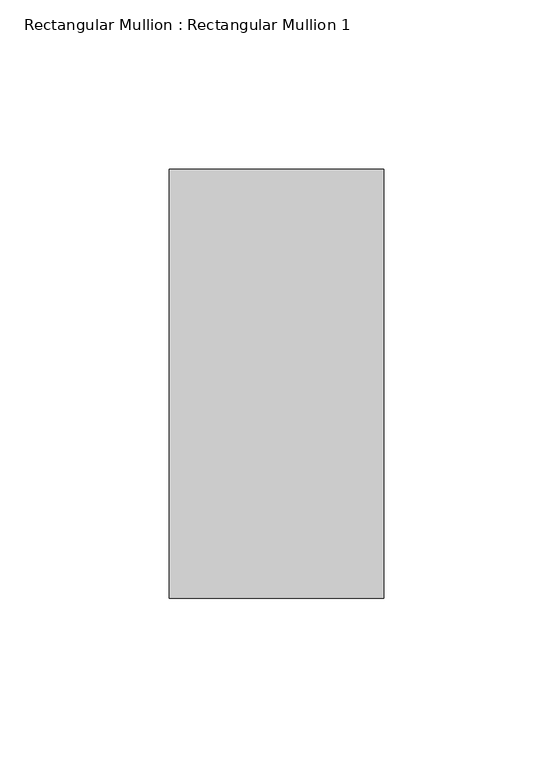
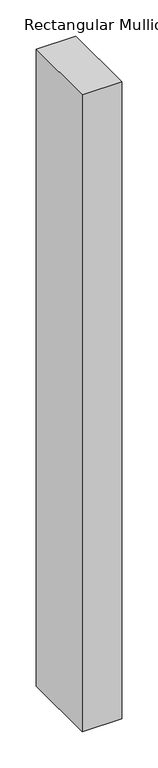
"""IFC4 building model written with IfcOpenShell, lengths in millimetres: member geometry, Rectangular Mullion : Rectangular Mullion 1."""

import ifcopenshell
import ifcopenshell.guid

model = None  # the IFC model being written
_history = None  # IfcOwnerHistory: only IFC2X3 demands one
_inside = {}  # id of a spatial element -> (the spatial element, [elements in it])
_under = {}  # id of a project, library or spatial element -> (it, [spatial elements below it])
_declared = {}  # id of a project -> (the project, [libraries it declares])
_typed = {}  # id of a type object -> (the type object, [elements of that type])
_made_of = {}  # id of a material, layer set ... -> (it, [elements and type objects made of it])


def new_model(schema):
    """Start an empty IFC model of exactly this schema.

    Asked for "IFC4X3", IfcOpenShell would pick the latest addendum, in which some entities
    have other attributes; the version numbers below select the first issue.
    IFC2X3 requires an IfcOwnerHistory on every rooted entity: one is made here for all.
    """
    global model, _history
    if schema == "IFC4X3":
        model = ifcopenshell.file(schema_version=(4, 3, 0, 0))
    else:
        model = ifcopenshell.file(schema=schema)
    _inside.clear()
    _under.clear()
    _declared.clear()
    _typed.clear()
    _made_of.clear()
    _history = None
    if model.schema == "IFC2X3":
        org = make("IfcOrganization", Name="unknown")
        user = make(
            "IfcPersonAndOrganization",
            ThePerson=make("IfcPerson", FamilyName="unknown"),
            TheOrganization=org,
        )
        app = make(
            "IfcApplication",
            ApplicationDeveloper=org,
            Version="unknown",
            ApplicationFullName="unknown",
            ApplicationIdentifier="unknown",
        )
        _history = make(
            "IfcOwnerHistory",
            OwningUser=user,
            OwningApplication=app,
            ChangeAction="ADDED",
            CreationDate=0,
        )
    return model


def make(cls, **values):
    """One entity of the class cls with the attributes given. An attribute that is None is left unset."""
    return model.create_entity(
        cls, **{name: value for name, value in values.items() if value is not None}
    )


def rooted(cls, **values):
    """An entity with a GlobalId (a new one), such as an element, a storey or a relation."""
    return make(cls, GlobalId=ifcopenshell.guid.new(), OwnerHistory=_history, **values)


def si_unit(unit_type, name, prefix=None):
    """IfcSIUnit, for example si_unit("LENGTHUNIT", "METRE", prefix="MILLI")."""
    return make("IfcSIUnit", UnitType=unit_type, Prefix=prefix, Name=name)


def assignment(units):
    """IfcUnitAssignment: the units of a project."""
    return None if units is None else make("IfcUnitAssignment", Units=units)


def point(xyz):
    """IfcCartesianPoint."""
    return None if xyz is None else make("IfcCartesianPoint", Coordinates=xyz)


def direction(xyz):
    """IfcDirection."""
    return None if xyz is None else make("IfcDirection", DirectionRatios=xyz)


def frame(location, z_axis=None, x_axis=None):
    """IfcAxis2Placement3D, a coordinate frame: its origin and axes. An axis left out is left unset."""
    return make(
        "IfcAxis2Placement3D",
        Location=point(location),
        Axis=direction(z_axis),
        RefDirection=direction(x_axis),
    )


def origin():
    """The frame at (0, 0, 0) with its axes left unset."""
    return frame((0.0, 0.0, 0.0))


def place(relative_to, where):
    """IfcLocalPlacement: puts the frame where relative to a parent placement (None: the world)."""
    return make(
        "IfcLocalPlacement", PlacementRelTo=relative_to, RelativePlacement=where
    )


def context(
    kind, dimensions, precision=None, world=None, true_north=None, identifier=None
):
    """IfcGeometricRepresentationContext, for example the 3D "Model" context."""
    return make(
        "IfcGeometricRepresentationContext",
        ContextIdentifier=identifier,
        ContextType=kind,
        CoordinateSpaceDimension=dimensions,
        Precision=precision,
        WorldCoordinateSystem=world,
        TrueNorth=true_north,
    )


def project(units=None, contexts=None):
    """IfcProject with its units and contexts."""
    return rooted(
        "IfcProject",
        Name="project",
        RepresentationContexts=contexts,
        UnitsInContext=assignment(units),
    )


def spatial(cls, under=None, at=None, **own):
    """A site, building, storey or space (cls), placed at a placement, below another one or the project."""
    s = rooted(cls, ObjectPlacement=at, **own)
    if under is not None:
        _under.setdefault(under.id(), (under, []))[1].append(s)
    return s


def polyline(points):
    """IfcPolyline through the points."""
    return make("IfcPolyline", Points=[point(p) for p in points])


def outline(outer, holes=None, kind="AREA"):
    """IfcArbitraryClosedProfileDef: a profile drawn as a closed curve; with holes, ...WithVoids."""
    if holes is None:
        return make("IfcArbitraryClosedProfileDef", ProfileType=kind, OuterCurve=outer)
    return make(
        "IfcArbitraryProfileDefWithVoids",
        ProfileType=kind,
        OuterCurve=outer,
        InnerCurves=holes,
    )


def extrude(swept, where, along, depth):
    """IfcExtrudedAreaSolid: the profile swept, set in the frame where, extruded along a direction by depth."""
    return make(
        "IfcExtrudedAreaSolid",
        SweptArea=swept,
        Position=where,
        ExtrudedDirection=direction(along),
        Depth=depth,
    )


def shape(context_of_items, identifier, shape_type, items):
    """IfcShapeRepresentation: the items that make up one representation, for example the "Body"."""
    return make(
        "IfcShapeRepresentation",
        ContextOfItems=context_of_items,
        RepresentationIdentifier=identifier,
        RepresentationType=shape_type,
        Items=items,
    )


def source(mapping_origin, context_of_items, identifier, shape_type, items):
    """IfcRepresentationMap: a shape defined once, which mapped items show again and again."""
    return make(
        "IfcRepresentationMap",
        MappingOrigin=mapping_origin,
        MappedRepresentation=shape(context_of_items, identifier, shape_type, items),
    )


def transform(
    local_origin,
    x_axis=None,
    y_axis=None,
    z_axis=None,
    scale=None,
    scale2=None,
    scale3=None,
    uniform=True,
):
    """IfcCartesianTransformationOperator3D, or its non-uniform kind. x_axis, y_axis, z_axis: its Axis1, 2, 3."""
    if uniform:
        return make(
            "IfcCartesianTransformationOperator3D",
            Axis1=direction(x_axis),
            Axis2=direction(y_axis),
            LocalOrigin=point(local_origin),
            Scale=scale,
            Axis3=direction(z_axis),
        )
    return make(
        "IfcCartesianTransformationOperator3DnonUniform",
        Axis1=direction(x_axis),
        Axis2=direction(y_axis),
        LocalOrigin=point(local_origin),
        Scale=scale,
        Axis3=direction(z_axis),
        Scale2=scale2,
        Scale3=scale3,
    )


def mapped(mapping_source, mapping_target):
    """IfcMappedItem: shows the shape of a source again, moved by a transform."""
    return make(
        "IfcMappedItem", MappingSource=mapping_source, MappingTarget=mapping_target
    )


def made_of(thing, what):
    """Note that an element or type object is made of a material, layer set ...; save() writes the relation."""
    if what is not None:
        _made_of.setdefault(what.id(), (what, []))[1].append(thing)
    return thing


def element(
    cls,
    number,
    at=None,
    inside=None,
    cuts=None,
    type_object=None,
    material=None,
    context=None,
    identifier="Body",
    shape_type=None,
    held_by="IfcProductDefinitionShape",
    body=None,
    shapes=None,
    **own,
):
    """One element of the class cls, such as IfcWall. Its Tag is "e" and its number.

    at: its placement. inside: the storey or other place that contains it. cuts: it is an
    opening in that element (IfcRelVoidsElement). A single representation is given by context,
    identifier, shape_type and body (its items); several are given by shapes. held_by: the class
    of the entity that holds the representations. save() writes the other relations.
    """
    e = rooted(cls, Tag="e%d" % number, ObjectPlacement=at, **own)
    if body is not None:
        shapes = [shape(context, identifier, shape_type, body)]
    if shapes is not None:
        e.Representation = make(held_by, Representations=shapes)
    if inside is not None:
        _inside.setdefault(inside.id(), (inside, []))[1].append(e)
    if cuts is not None:
        rooted(
            "IfcRelVoidsElement", RelatingBuildingElement=cuts, RelatedOpeningElement=e
        )
    if type_object is not None:
        _typed.setdefault(type_object.id(), (type_object, []))[1].append(e)
    return made_of(e, material)


def aggregate(whole, parts):
    """IfcRelAggregates: a whole, such as a stair, and the parts it consists of."""
    return rooted("IfcRelAggregates", RelatingObject=whole, RelatedObjects=parts)


def save(model, path):
    """Write the relations noted so far, then the file.

    IfcRelAggregates (storeys below a building ...), IfcRelContainedInSpatialStructure (elements
    in a storey), IfcRelDefinesByType, IfcRelAssociatesMaterial and IfcRelDeclares: one each for
    every whole, place, type object, material and project.
    """
    for whole, parts in _under.values():
        aggregate(whole, parts)
    for where, things in _inside.values():
        rooted(
            "IfcRelContainedInSpatialStructure",
            RelatedElements=things,
            RelatingStructure=where,
        )
    for kind, things in _typed.values():
        rooted("IfcRelDefinesByType", RelatedObjects=things, RelatingType=kind)
    for what, things in _made_of.values():
        rooted("IfcRelAssociatesMaterial", RelatedObjects=things, RelatingMaterial=what)
    for by, libraries in _declared.values():
        rooted("IfcRelDeclares", RelatingContext=by, RelatedDefinitions=libraries)
    model.write(path)


def rectangular_mullion_rectangular_mullion_1_ad07f679(model_context):
    return source(origin(), model_context, "Body", "SweptSolid", [
        extrude(outline(polyline([(0.0, 63.5), (0.0, -63.5), (-63.5, -63.5), (-63.5, 63.5), (0.0, 63.5)])), frame((0.0, 0.0, -1075.8714288), z_axis=(0.0, 0.0, 1.0), x_axis=(1.0, 0.0, 0.0)), (0.0, 0.0, 1.0), 1075.8714288),
    ])


if __name__ == "__main__":
    model = new_model("IFC4")
    model_context = context("Model", 3, world=origin())
    ifc_project = project(units=[si_unit("LENGTHUNIT", "METRE", prefix="MILLI")], contexts=[model_context])
    site = spatial("IfcSite", under=ifc_project)
    building = spatial("IfcBuilding", under=site)
    placement = place(None, origin())
    rectangular_mullion_rectangular_mullion_1_shape = rectangular_mullion_rectangular_mullion_1_ad07f679(model_context)
    element("IfcMember", 1, ObjectType="Rectangular Mullion : Rectangular Mullion 1", at=placement, inside=building, context=model_context, shape_type="MappedRepresentation", body=[
        mapped(rectangular_mullion_rectangular_mullion_1_shape, transform((0.0, 0.0, 0.0), x_axis=(1.0, 0.0, 0.0), y_axis=(0.0, 1.0, 0.0), z_axis=(0.0, 0.0, 1.0))),
    ])
    save(model, "model.ifc")
